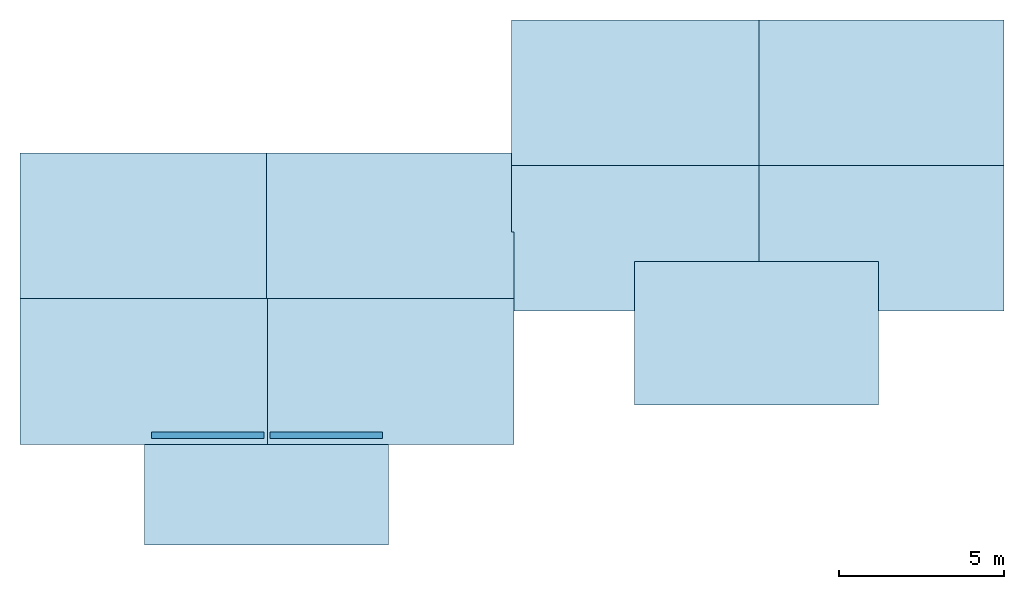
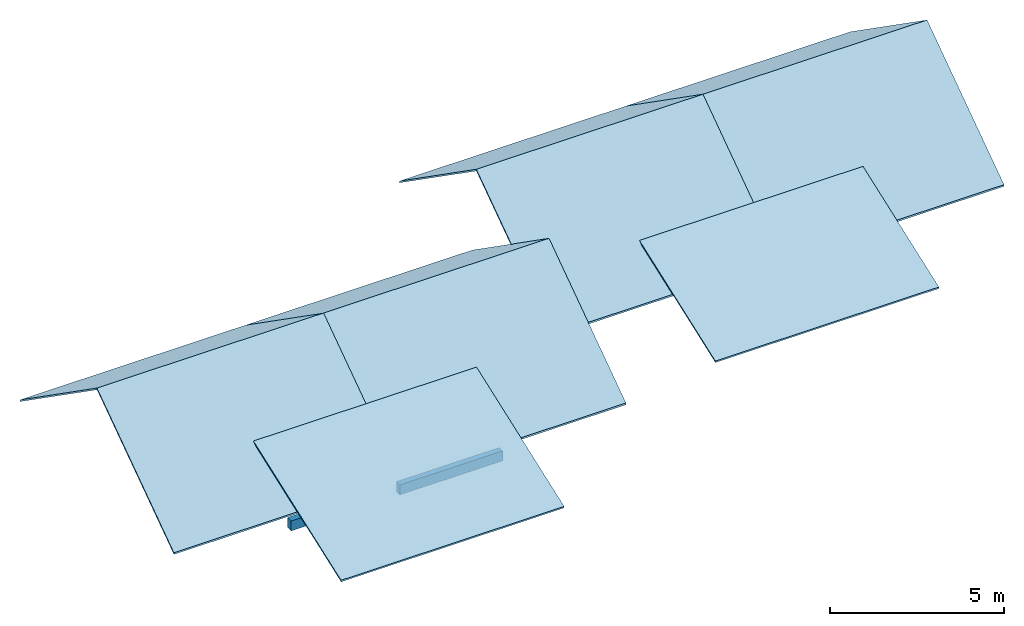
# One storey: 10 slabs, 2 beams, 6 elements without a shape of their own.
"""IFC2X3 building model written with IfcOpenShell, lengths in metres."""

import ifcopenshell
import ifcopenshell.guid

model = None  # the IFC model being written
_history = None  # IfcOwnerHistory: only IFC2X3 demands one
_inside = {}  # id of a spatial element -> (the spatial element, [elements in it])
_under = {}  # id of a project, library or spatial element -> (it, [spatial elements below it])
_declared = {}  # id of a project -> (the project, [libraries it declares])
_typed = {}  # id of a type object -> (the type object, [elements of that type])
_made_of = {}  # id of a material, layer set ... -> (it, [elements and type objects made of it])


def new_model(schema):
    """Start an empty IFC model of exactly this schema.

    Asked for "IFC4X3", IfcOpenShell would pick the latest addendum, in which some entities
    have other attributes; the version numbers below select the first issue.
    IFC2X3 requires an IfcOwnerHistory on every rooted entity: one is made here for all.
    """
    global model, _history
    if schema == "IFC4X3":
        model = ifcopenshell.file(schema_version=(4, 3, 0, 0))
    else:
        model = ifcopenshell.file(schema=schema)
    _inside.clear()
    _under.clear()
    _declared.clear()
    _typed.clear()
    _made_of.clear()
    _history = None
    if model.schema == "IFC2X3":
        org = make("IfcOrganization", Name="unknown")
        user = make(
            "IfcPersonAndOrganization",
            ThePerson=make("IfcPerson", FamilyName="unknown"),
            TheOrganization=org,
        )
        app = make(
            "IfcApplication",
            ApplicationDeveloper=org,
            Version="unknown",
            ApplicationFullName="unknown",
            ApplicationIdentifier="unknown",
        )
        _history = make(
            "IfcOwnerHistory",
            OwningUser=user,
            OwningApplication=app,
            ChangeAction="ADDED",
            CreationDate=0,
        )
    return model


def make(cls, **values):
    """One entity of the class cls with the attributes given. An attribute that is None is left unset."""
    return model.create_entity(
        cls, **{name: value for name, value in values.items() if value is not None}
    )


def entity(cls, *values):
    """Any entity or typed value of the class cls, its attributes in the order of the schema. None: left unset."""
    e = model.create_entity(cls)
    for i, value in enumerate(values):
        if value is not None:
            e[i] = value
    return e


def rooted(cls, **values):
    """An entity with a GlobalId (a new one), such as an element, a storey or a relation."""
    return make(cls, GlobalId=ifcopenshell.guid.new(), OwnerHistory=_history, **values)


def si_unit(unit_type, name, prefix=None):
    """IfcSIUnit, for example si_unit("LENGTHUNIT", "METRE", prefix="MILLI")."""
    return make("IfcSIUnit", UnitType=unit_type, Prefix=prefix, Name=name)


def converted_unit(unit_type, name, factor, base, dimensions=None, offset=None):
    """IfcConversionBasedUnit, such as the inch: factor (a typed value) times the base unit."""
    return make(
        "IfcConversionBasedUnit"
        if offset is None
        else "IfcConversionBasedUnitWithOffset",
        ConversionOffset=offset,
        Dimensions=None
        if dimensions is None
        else entity("IfcDimensionalExponents", *dimensions),
        UnitType=unit_type,
        Name=name,
        ConversionFactor=make(
            "IfcMeasureWithUnit", ValueComponent=factor, UnitComponent=base
        ),
    )


def derived_unit(unit_type, elements):
    """IfcDerivedUnit: a product of units, each with its exponent."""
    return make(
        "IfcDerivedUnit",
        Elements=[
            make("IfcDerivedUnitElement", Unit=unit, Exponent=power)
            for unit, power in elements
        ],
        UnitType=unit_type,
    )


def assignment(units):
    """IfcUnitAssignment: the units of a project."""
    return None if units is None else make("IfcUnitAssignment", Units=units)


def point(xyz):
    """IfcCartesianPoint."""
    return None if xyz is None else make("IfcCartesianPoint", Coordinates=xyz)


def direction(xyz):
    """IfcDirection."""
    return None if xyz is None else make("IfcDirection", DirectionRatios=xyz)


def frame(location, z_axis=None, x_axis=None):
    """IfcAxis2Placement3D, a coordinate frame: its origin and axes. An axis left out is left unset."""
    return make(
        "IfcAxis2Placement3D",
        Location=point(location),
        Axis=direction(z_axis),
        RefDirection=direction(x_axis),
    )


def frame_2d(location, x_axis=None):
    """IfcAxis2Placement2D, a coordinate frame in the plane: its origin and x axis."""
    return make(
        "IfcAxis2Placement2D", Location=point(location), RefDirection=direction(x_axis)
    )


def origin():
    """The frame at (0, 0, 0) with its axes left unset."""
    return frame((0.0, 0.0, 0.0))


def place(relative_to, where):
    """IfcLocalPlacement: puts the frame where relative to a parent placement (None: the world)."""
    return make(
        "IfcLocalPlacement", PlacementRelTo=relative_to, RelativePlacement=where
    )


def context(
    kind, dimensions, precision=None, world=None, true_north=None, identifier=None
):
    """IfcGeometricRepresentationContext, for example the 3D "Model" context."""
    return make(
        "IfcGeometricRepresentationContext",
        ContextIdentifier=identifier,
        ContextType=kind,
        CoordinateSpaceDimension=dimensions,
        Precision=precision,
        WorldCoordinateSystem=world,
        TrueNorth=true_north,
    )


def subcontext(parent, identifier, kind, view, scale=None):
    """IfcGeometricRepresentationSubContext, for example "Body" below "Model"."""
    return make(
        "IfcGeometricRepresentationSubContext",
        ContextIdentifier=identifier,
        ContextType=kind,
        ParentContext=parent,
        TargetScale=scale,
        TargetView=view,
    )


def project(units=None, contexts=None):
    """IfcProject with its units and contexts."""
    return rooted(
        "IfcProject",
        Name="project",
        RepresentationContexts=contexts,
        UnitsInContext=assignment(units),
    )


def spatial(cls, under=None, at=None, **own):
    """A site, building, storey or space (cls), placed at a placement, below another one or the project."""
    s = rooted(cls, ObjectPlacement=at, **own)
    if under is not None:
        _under.setdefault(under.id(), (under, []))[1].append(s)
    return s


def profile(cls, at=None, kind="AREA", **sizes):
    """A parametric profile (cls). Its sizes go by their IFC names, for example OverallWidth=200.0."""
    return make(cls, ProfileType=kind, Position=at, **sizes)


def rectangle(**sizes):
    """IfcRectangleProfileDef."""
    return profile("IfcRectangleProfileDef", **sizes)


def extrude(swept, where, along, depth):
    """IfcExtrudedAreaSolid: the profile swept, set in the frame where, extruded along a direction by depth."""
    return make(
        "IfcExtrudedAreaSolid",
        SweptArea=swept,
        Position=where,
        ExtrudedDirection=direction(along),
        Depth=depth,
    )


def shape(context_of_items, identifier, shape_type, items):
    """IfcShapeRepresentation: the items that make up one representation, for example the "Body"."""
    return make(
        "IfcShapeRepresentation",
        ContextOfItems=context_of_items,
        RepresentationIdentifier=identifier,
        RepresentationType=shape_type,
        Items=items,
    )


def material(Name=None, Category=None):
    """IfcMaterial."""
    return make("IfcMaterial", Name=Name, Category=Category)


def layer(
    of_material, thickness, ventilated=None, Name=None, Category=None, Priority=None
):
    """IfcMaterialLayer: one layer of a wall or slab, of a material (None: an air gap)."""
    return make(
        "IfcMaterialLayer",
        Material=of_material,
        LayerThickness=thickness,
        IsVentilated=ventilated,
        Name=Name,
        Category=Category,
        Priority=Priority,
    )


def layer_set(layers, Name=None):
    """IfcMaterialLayerSet."""
    return make("IfcMaterialLayerSet", MaterialLayers=layers, LayerSetName=Name)


def made_of(thing, what):
    """Note that an element or type object is made of a material, layer set ...; save() writes the relation."""
    if what is not None:
        _made_of.setdefault(what.id(), (what, []))[1].append(thing)
    return thing


def type_object(cls, material=None, **own):
    """A type object (cls), such as IfcWallType, which elements share."""
    return made_of(rooted(cls, **own), material)


def element(
    cls,
    number,
    at=None,
    inside=None,
    cuts=None,
    type_object=None,
    material=None,
    context=None,
    identifier="Body",
    shape_type=None,
    held_by="IfcProductDefinitionShape",
    body=None,
    shapes=None,
    **own,
):
    """One element of the class cls, such as IfcWall. Its Tag is "e" and its number.

    at: its placement. inside: the storey or other place that contains it. cuts: it is an
    opening in that element (IfcRelVoidsElement). A single representation is given by context,
    identifier, shape_type and body (its items); several are given by shapes. held_by: the class
    of the entity that holds the representations. save() writes the other relations.
    """
    e = rooted(cls, Tag="e%d" % number, ObjectPlacement=at, **own)
    if body is not None:
        shapes = [shape(context, identifier, shape_type, body)]
    if shapes is not None:
        e.Representation = make(held_by, Representations=shapes)
    if inside is not None:
        _inside.setdefault(inside.id(), (inside, []))[1].append(e)
    if cuts is not None:
        rooted(
            "IfcRelVoidsElement", RelatingBuildingElement=cuts, RelatedOpeningElement=e
        )
    if type_object is not None:
        _typed.setdefault(type_object.id(), (type_object, []))[1].append(e)
    return made_of(e, material)


def aggregate(whole, parts):
    """IfcRelAggregates: a whole, such as a stair, and the parts it consists of."""
    return rooted("IfcRelAggregates", RelatingObject=whole, RelatedObjects=parts)


def save(model, path):
    """Write the relations noted so far, then the file.

    IfcRelAggregates (storeys below a building ...), IfcRelContainedInSpatialStructure (elements
    in a storey), IfcRelDefinesByType, IfcRelAssociatesMaterial and IfcRelDeclares: one each for
    every whole, place, type object, material and project.
    """
    for whole, parts in _under.values():
        aggregate(whole, parts)
    for where, things in _inside.values():
        rooted(
            "IfcRelContainedInSpatialStructure",
            RelatedElements=things,
            RelatingStructure=where,
        )
    for kind, things in _typed.values():
        rooted("IfcRelDefinesByType", RelatedObjects=things, RelatingType=kind)
    for what, things in _made_of.values():
        rooted("IfcRelAssociatesMaterial", RelatedObjects=things, RelatingMaterial=what)
    for by, libraries in _declared.values():
        rooted("IfcRelDeclares", RelatingContext=by, RelatedDefinitions=libraries)
    model.write(path)


model = new_model("IFC2X3")

# Units and contexts
model_context = context("Model", 3, precision=1e-05, world=origin(), true_north=direction((6.12303176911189e-17, 1.0)))
body_context = subcontext(model_context, "Body", "Model", "MODEL_VIEW")
ifc_project = project(units=[si_unit("LENGTHUNIT", "METRE"), si_unit("AREAUNIT", "SQUARE_METRE"), si_unit("VOLUMEUNIT", "CUBIC_METRE"), converted_unit("PLANEANGLEUNIT", "DEGREE", entity("IfcRatioMeasure", 0.0174532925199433), si_unit("PLANEANGLEUNIT", "RADIAN"), dimensions=[0, 0, 0, 0, 0, 0, 0]), si_unit("MASSUNIT", "GRAM", prefix="KILO"), derived_unit("MASSDENSITYUNIT", [(si_unit("MASSUNIT", "GRAM", prefix="KILO"), 1), (si_unit("LENGTHUNIT", "METRE"), -3)]), si_unit("TIMEUNIT", "SECOND"), si_unit("FREQUENCYUNIT", "HERTZ"), si_unit("THERMODYNAMICTEMPERATUREUNIT", "DEGREE_CELSIUS"), derived_unit("THERMALTRANSMITTANCEUNIT", [(si_unit("MASSUNIT", "GRAM", prefix="KILO"), 1), (si_unit("THERMODYNAMICTEMPERATUREUNIT", "KELVIN"), -1), (si_unit("TIMEUNIT", "SECOND"), -3)]), derived_unit("VOLUMETRICFLOWRATEUNIT", [(si_unit("LENGTHUNIT", "METRE"), 3), (si_unit("TIMEUNIT", "SECOND"), -1)]), si_unit("ELECTRICCURRENTUNIT", "AMPERE"), si_unit("ELECTRICVOLTAGEUNIT", "VOLT"), si_unit("POWERUNIT", "WATT"), si_unit("FORCEUNIT", "NEWTON", prefix="KILO"), si_unit("ILLUMINANCEUNIT", "LUX"), si_unit("LUMINOUSFLUXUNIT", "LUMEN"), si_unit("LUMINOUSINTENSITYUNIT", "CANDELA"), derived_unit("USERDEFINED", [(si_unit("MASSUNIT", "GRAM", prefix="KILO"), -1), (si_unit("LENGTHUNIT", "METRE"), -2), (si_unit("TIMEUNIT", "SECOND"), 3), (si_unit("LUMINOUSFLUXUNIT", "LUMEN"), 1)]), derived_unit("LINEARVELOCITYUNIT", [(si_unit("LENGTHUNIT", "METRE"), 1), (si_unit("TIMEUNIT", "SECOND"), -1)]), si_unit("PRESSUREUNIT", "PASCAL"), derived_unit("USERDEFINED", [(si_unit("LENGTHUNIT", "METRE"), -2), (si_unit("MASSUNIT", "GRAM", prefix="KILO"), 1), (si_unit("TIMEUNIT", "SECOND"), -2)])], contexts=[model_context])

# Site, building, storey
site_placement = place(None, origin())
site = spatial("IfcSite", under=ifc_project, at=site_placement, Name="Surface", CompositionType="ELEMENT")
building_placement = place(site_placement, origin())
building = spatial("IfcBuilding", under=site, at=building_placement, CompositionType="ELEMENT")
storey_placement = place(building_placement, frame((0.0, 0.0, 5.64)))
storey = spatial("IfcBuildingStorey", under=building, at=storey_placement, Name="Egout", CompositionType="ELEMENT", Elevation=5.64)

# Beams
ifc_material_1 = material(Name="Béton - Béton coulé sur place")
beam_type = type_object("IfcBeamType", Name="20 x 35 ht", PredefinedType="BEAM")
beam_1_placement = place(storey_placement, frame((72.334626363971, 80.0077566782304, 0.0699999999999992), z_axis=(0.0, 0.0, 1.0), x_axis=(-1.0, 0.0, 0.0)))
element("IfcBeam", 1, at=beam_1_placement, inside=storey, type_object=beam_type, material=ifc_material_1, Name="Poutre rectangulaire - Béton:20 x 35 ht", ObjectType="Poutre rectangulaire - Béton:20 x 35 ht", context=body_context, shape_type="SweptSolid", body=[
    extrude(rectangle(XDim=0.35, YDim=0.199999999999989, at=frame_2d((-5.41233724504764e-16, -1.73264180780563e-14), x_axis=(1.0, 0.0))), frame((-0.0127000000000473, 0.0, -0.175000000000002), z_axis=(1.0, 0.0, 0.0), x_axis=(0.0, 0.0, -1.0)), (0.0, 0.0, 1.0), 3.4154),
])
beam_2_placement = place(storey_placement, frame((65.3346263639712, 80.0077566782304, 0.0699999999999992)))
element("IfcBeam", 2, at=beam_2_placement, inside=storey, type_object=beam_type, material=ifc_material_1, Name="Poutre rectangulaire - Béton:20 x 35 ht", ObjectType="Poutre rectangulaire - Béton:20 x 35 ht", context=body_context, shape_type="SweptSolid", body=[
    extrude(rectangle(XDim=0.35, YDim=0.199999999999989, at=frame_2d((-5.41233724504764e-16, 1.73264180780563e-14), x_axis=(1.0, 0.0))), frame((-0.0127000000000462, 0.0, -0.175000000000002), z_axis=(1.0, 0.0, 0.0), x_axis=(0.0, 0.0, -1.0)), (0.0, 0.0, 1.0), 3.4154),
])

# Roof, slabs
roof_1_placement = place(storey_placement, frame((68.8142429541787, 79.7377566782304, 0.39496886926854)))
roof_1 = element("IfcRoof", 3, at=roof_1_placement, inside=storey, Name="Toit de base:Toit - 100 brun  gris", ObjectType="Toit de base:Toit - 100 brun  gris", ShapeType="NOTDEFINED")
ifc_material_2 = material(Name="gris")
ifc_layer = layer(ifc_material_2, 0.05)
ifc_layer_set = layer_set([ifc_layer], Name="Toit de base:Toit - 100 brun  gris")
slab_1_placement = place(roof_1_placement, origin())
slab_1 = element("IfcSlab", 4, at=slab_1_placement, material=ifc_layer_set, Name="Toit de base:Toit - 100 brun  gris", ObjectType="Toit de base:Toit - 100 brun  gris", PredefinedType="ROOF", context=body_context, shape_type="SweptSolid", body=[
    extrude(rectangle(XDim=5.39582368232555, YDim=7.51864635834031, at=frame_2d((-4.21884749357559e-15, 0.0), x_axis=(0.0, -1.0))), frame((3.75932317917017, 6.63, 1.54745865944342), z_axis=(0.0, 0.573576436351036, 0.819152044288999), x_axis=(1.0, 0.0, 0.0)), (0.0, -0.573576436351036, 0.819152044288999), 0.0610387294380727),
])
slab_2_placement = place(roof_1_placement, origin())
slab_2 = element("IfcSlab", 5, at=slab_2_placement, material=ifc_layer_set, Name="Toit de base:Toit - 100 brun  gris", ObjectType="Toit de base:Toit - 100 brun  gris", PredefinedType="ROOF", context=body_context, shape_type="SweptSolid", body=[
    extrude(rectangle(XDim=7.51864635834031, YDim=5.39582368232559, at=frame_2d((4.44089209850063e-15, 2.22044604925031e-16), x_axis=(-1.0, 0.0))), frame((3.75932317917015, 2.21000000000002, 1.54745865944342), z_axis=(0.0, -0.573576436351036, 0.819152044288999), x_axis=(1.0, 0.0, 0.0)), (0.0, 0.573576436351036, 0.819152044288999), 0.0610387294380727),
])
aggregate(roof_1, [slab_1, slab_2])

roof_2_placement = place(storey_placement, frame((61.3363634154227, 79.7377566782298, 0.394968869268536)))
roof_2 = element("IfcRoof", 6, at=roof_2_placement, inside=storey, Name="Toit de base:Toit - 100 brun  gris", ObjectType="Toit de base:Toit - 100 brun  gris", ShapeType="NOTDEFINED")
slab_3_placement = place(roof_2_placement, origin())
slab_3 = element("IfcSlab", 7, at=slab_3_placement, material=ifc_layer_set, Name="Toit de base:Toit - 100 brun  gris", ObjectType="Toit de base:Toit - 100 brun  gris", PredefinedType="ROOF", context=body_context, shape_type="SweptSolid", body=[
    extrude(rectangle(XDim=7.51864635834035, YDim=5.39582368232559, at=frame_2d((-4.21884749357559e-15, 0.0), x_axis=(1.0, 0.0))), frame((3.7593231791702, 6.63000000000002, 1.54745865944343), z_axis=(0.0, 0.573576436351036, 0.819152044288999), x_axis=(1.0, 0.0, 0.0)), (0.0, -0.573576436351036, 0.819152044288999), 0.0610387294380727),
])
slab_4_placement = place(roof_2_placement, origin())
slab_4 = element("IfcSlab", 8, at=slab_4_placement, material=ifc_layer_set, Name="Toit de base:Toit - 100 brun  gris", ObjectType="Toit de base:Toit - 100 brun  gris", PredefinedType="ROOF", context=body_context, shape_type="SweptSolid", body=[
    extrude(rectangle(XDim=5.39582368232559, YDim=7.51864635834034, at=frame_2d((4.44089209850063e-15, -1.06581410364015e-14), x_axis=(0.0, 1.0))), frame((3.75932317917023, 2.21000000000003, 1.54745865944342), z_axis=(0.0, -0.573576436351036, 0.819152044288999), x_axis=(1.0, 0.0, 0.0)), (0.0, 0.573576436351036, 0.819152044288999), 0.0610387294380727),
])
aggregate(roof_2, [slab_3, slab_4])

roof_3_placement = place(storey_placement, frame((83.6864023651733, 83.7775239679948, 0.39496886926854)))
roof_3 = element("IfcRoof", 9, at=roof_3_placement, inside=storey, Name="Toit de base:Toit - 100 brun  gris", ObjectType="Toit de base:Toit - 100 brun  gris", ShapeType="NOTDEFINED")
slab_5_placement = place(roof_3_placement, origin())
slab_5 = element("IfcSlab", 10, at=slab_5_placement, material=ifc_layer_set, Name="Toit de base:Toit - 100 brun  gris", ObjectType="Toit de base:Toit - 100 brun  gris", PredefinedType="ROOF", context=body_context, shape_type="SweptSolid", body=[
    extrude(rectangle(XDim=5.39582368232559, YDim=7.51864635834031, at=frame_2d((0.0, -4.44089209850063e-16), x_axis=(0.0, -1.0))), frame((3.75932317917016, 6.63, 1.54745865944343), z_axis=(0.0, 0.573576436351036, 0.819152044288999), x_axis=(1.0, 0.0, 0.0)), (0.0, -0.573576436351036, 0.819152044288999), 0.0610387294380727),
])
slab_6_placement = place(roof_3_placement, origin())
slab_6 = element("IfcSlab", 11, at=slab_6_placement, material=ifc_layer_set, Name="Toit de base:Toit - 100 brun  gris", ObjectType="Toit de base:Toit - 100 brun  gris", PredefinedType="ROOF", context=body_context, shape_type="SweptSolid", body=[
    extrude(rectangle(XDim=7.51864635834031, YDim=5.39582368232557, at=frame_2d((-8.65973959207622e-15, -1.04360964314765e-14), x_axis=(-1.0, 0.0))), frame((3.75932317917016, 2.21000000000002, 1.54745865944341), z_axis=(0.0, -0.573576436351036, 0.819152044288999), x_axis=(1.0, 0.0, 0.0)), (0.0, 0.573576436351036, 0.819152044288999), 0.0610387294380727),
])
aggregate(roof_3, [slab_5, slab_6])

roof_4_placement = place(storey_placement, frame((76.252756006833, 83.7775239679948, 0.394968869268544)))
roof_4 = element("IfcRoof", 12, at=roof_4_placement, inside=storey, Name="Toit de base:Toit - 100 brun  gris", ObjectType="Toit de base:Toit - 100 brun  gris", ShapeType="NOTDEFINED")
slab_7_placement = place(roof_4_placement, origin())
slab_7 = element("IfcSlab", 13, at=slab_7_placement, material=ifc_layer_set, Name="Toit de base:Toit - 100 brun  gris", ObjectType="Toit de base:Toit - 100 brun  gris", PredefinedType="ROOF", context=body_context, shape_type="SweptSolid", body=[
    extrude(rectangle(XDim=7.5186463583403, YDim=5.39582368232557, at=frame_2d((-4.21884749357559e-15, 0.0), x_axis=(1.0, 0.0))), frame((3.75932317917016, 6.63000000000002, 1.54745865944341), z_axis=(0.0, 0.573576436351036, 0.819152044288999), x_axis=(1.0, 0.0, 0.0)), (0.0, -0.573576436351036, 0.819152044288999), 0.0610387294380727),
])
slab_8_placement = place(roof_4_placement, origin())
slab_8 = element("IfcSlab", 14, at=slab_8_placement, material=ifc_layer_set, Name="Toit de base:Toit - 100 brun  gris", ObjectType="Toit de base:Toit - 100 brun  gris", PredefinedType="ROOF", context=body_context, shape_type="SweptSolid", body=[
    extrude(rectangle(XDim=5.39582368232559, YDim=7.51864635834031, at=frame_2d((4.44089209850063e-15, 1.08801856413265e-14), x_axis=(0.0, 1.0))), frame((3.75932317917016, 2.21000000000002, 1.54745865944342), z_axis=(0.0, -0.573576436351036, 0.819152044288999), x_axis=(1.0, 0.0, 0.0)), (0.0, 0.573576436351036, 0.819152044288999), 0.0610387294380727),
])
aggregate(roof_4, [slab_7, slab_8])

# Roof, slab
roof_5_placement = place(storey_placement, frame((79.9848885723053, 80.9275239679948, -0.126547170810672)))
roof_5 = element("IfcRoof", 15, at=roof_5_placement, inside=storey, Name="Toit de base:Toit - 100 brun  gris", ObjectType="Toit de base:Toit - 100 brun  gris", ShapeType="NOTDEFINED")
slab_9_placement = place(roof_5_placement, origin())
slab_9 = element("IfcSlab", 16, at=slab_9_placement, material=ifc_layer_set, Name="Toit de base:Toit - 100 brun  gris", ObjectType="Toit de base:Toit - 100 brun  gris", PredefinedType="ROOF", context=body_context, shape_type="SweptSolid", body=[
    extrude(rectangle(XDim=7.41579974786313, YDim=4.64060935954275, at=frame_2d((0.0, 2.22044604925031e-16), x_axis=(-1.0, 0.0))), frame((3.70789987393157, 2.18037318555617, 0.793590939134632), z_axis=(0.0, -0.342020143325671, 0.939692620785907), x_axis=(1.0, 0.0, 0.0)), (0.0, 0.342020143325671, 0.939692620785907), 0.0532088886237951),
])
aggregate(roof_5, [slab_9])

roof_6_placement = place(storey_placement, frame((65.1214172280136, 76.6877566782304, -0.0399999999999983)))
roof_6 = element("IfcRoof", 17, at=roof_6_placement, inside=storey, Name="Toit de base:Toit - 100 brun  gris", ObjectType="Toit de base:Toit - 100 brun  gris", ShapeType="NOTDEFINED")
slab_10_placement = place(roof_6_placement, origin())
slab_10 = element("IfcSlab", 18, at=slab_10_placement, material=ifc_layer_set, Name="Toit de base:Toit - 100 brun  gris", ObjectType="Toit de base:Toit - 100 brun  gris", PredefinedType="ROOF", context=body_context, shape_type="SweptSolid", body=[
    extrude(rectangle(XDim=7.40036854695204, YDim=5.55093873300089, at=frame_2d((-4.21884749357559e-15, 4.44089209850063e-16), x_axis=(-1.0, 0.0))), frame((3.70018427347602, 2.60808808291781, 0.949266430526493), z_axis=(0.0, -0.342020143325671, 0.939692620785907), x_axis=(1.0, 0.0, 0.0)), (0.0, 0.342020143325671, 0.939692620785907), 0.0532088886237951),
])
aggregate(roof_6, [slab_10])

save(model, "model.ifc")
